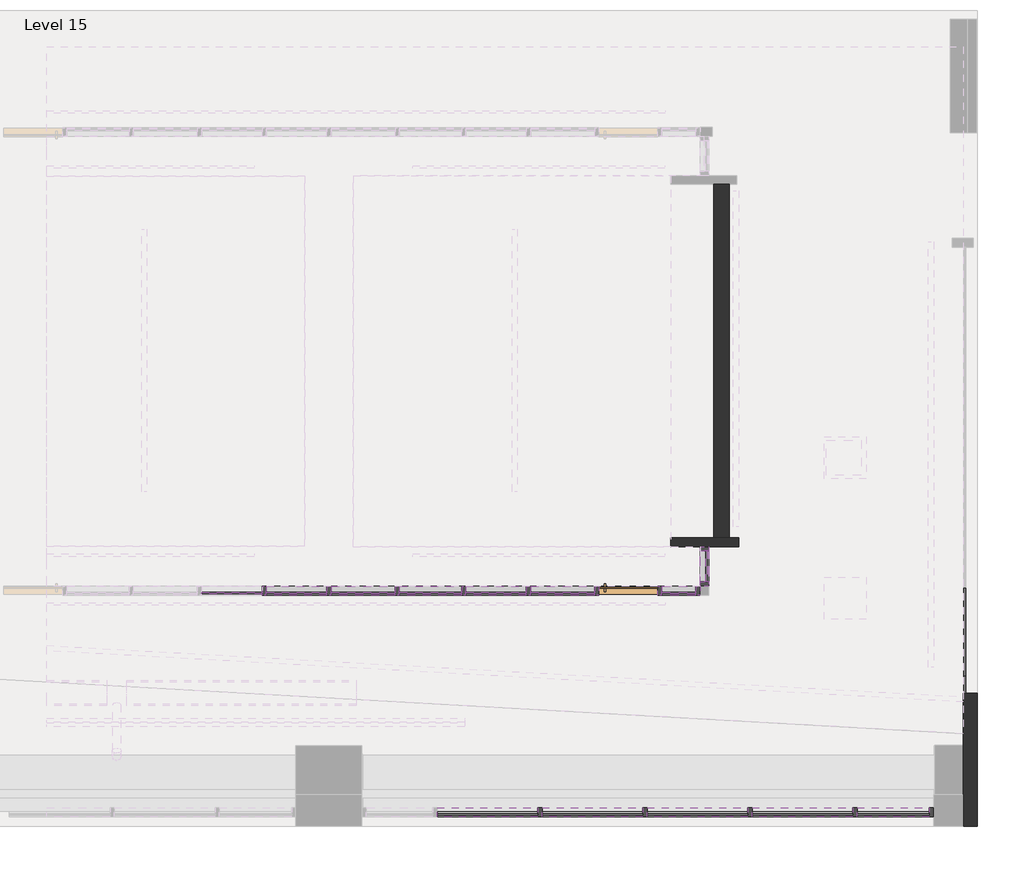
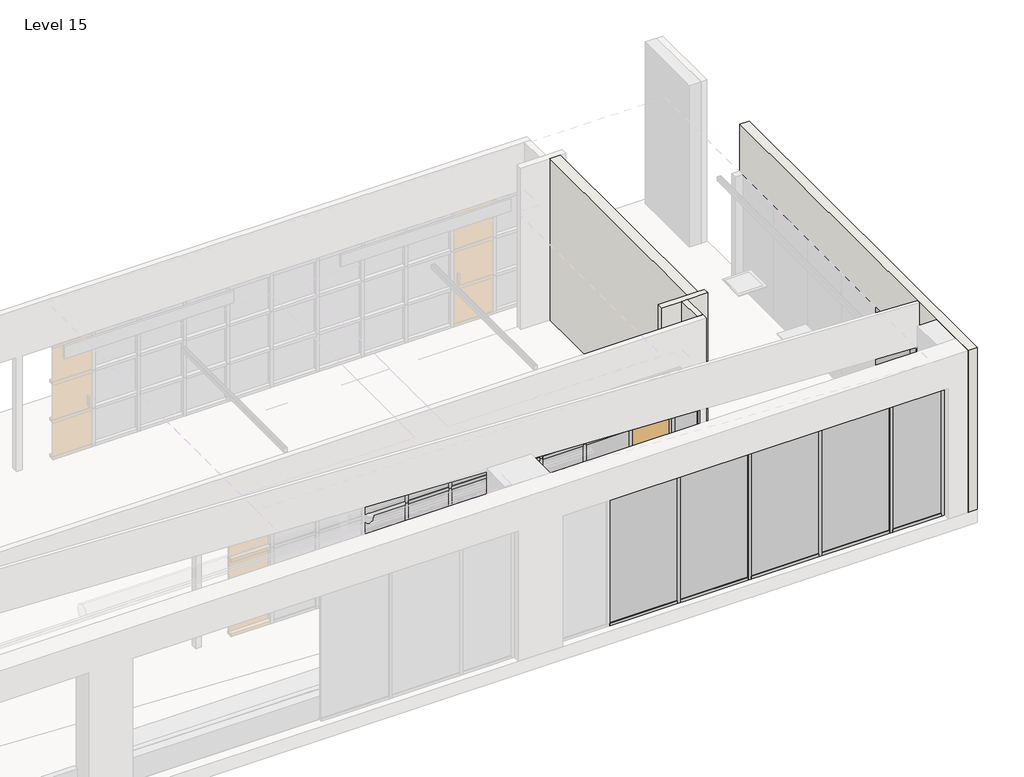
# One storey, part 3 of 11: 74 members, 31 plates, 4 walls, 1 door.
"""IFC4 building model written with IfcOpenShell, lengths in millimetres."""

from ifc_helpers import new_model, si_unit, frame, origin, place, context, project, spatial, polyline, outline, extrude, faceted_brep, transform, mapped, element, save
from components import door_curtain_wall_single_glass_door_curtain_wall_single_wood_7213060e, member_5bcf4c48, member_513efdbe, member_78934672, member_4a1dde21, member_3ebf181e, member_b9f3750b, member_757d0d80, member_69cae7f1, member_954a25dd, member_b7368e82, member_f689fba6, member_99b0d556, member_2928588c, member_aa254800, member_33497832, member_6ec9f0f0, system_panel_glazed_a2e86c99, system_panel_glazed_b6cfed7b, system_panel_glazed_1c2f863c, system_panel_glazed_3f6c4fe7, system_panel_glazed_92b1b0dd, system_panel_glazed_92ccbd79, system_panel_glazed_9c336c3c, system_panel_glazed_9f405089, system_panel_glazed_cf8f2fb3, system_panel_glazed_bf619781, system_panel_glazed_3cdeccce, system_panel_glazed_d449556d, system_panel_glazed_5ae3ba9e, system_panel_glazed_9605d38a

model = new_model("IFC4")

# Units and contexts
model_context = context("Model", 3, world=origin())
ifc_project = project(units=[si_unit("LENGTHUNIT", "METRE", prefix="MILLI")], contexts=[model_context])

# Site, building, storey
site = spatial("IfcSite", under=ifc_project)
building = spatial("IfcBuilding", under=site)
storey = spatial("IfcBuildingStorey", under=building, Name="Level 15", Elevation=51206.4)

# Door
placement = place(None, origin())
door_curtain_wall_single_glass_door_curtain_wall_single_wood_shape = door_curtain_wall_single_glass_door_curtain_wall_single_wood_7213060e(model_context)
element("IfcDoor", 1, ObjectType="Door-Curtain-Wall-Single-Glass : Door-Curtain-Wall-Single-Wood", at=placement, inside=storey, context=model_context, shape_type="MappedRepresentation", body=[
    mapped(door_curtain_wall_single_glass_door_curtain_wall_single_wood_shape, transform((13793.8112561, -3621.1064015, 51206.4), x_axis=(1.0, 0.0, 0.0), y_axis=(0.0, 1.0, 0.0), z_axis=(0.0, 0.0, 1.0))),
])

# Members
member_shape = member_5bcf4c48(model_context)
element("IfcMember", 2, ObjectType="Rectangular Mullion : 2.5\" x 5\" rectangular", at=placement, inside=storey, context=model_context, shape_type="MappedRepresentation", body=[
    mapped(member_shape, transform((18227.3384309, -6837.4064015, 54177.8252182), x_axis=(1.0, 0.0, 0.0), y_axis=(0.0, 1.0, 0.0), z_axis=(0.0, 0.0, 1.0))),
])
member_2_shape = member_513efdbe(model_context)
element("IfcMember", 3, ObjectType="Rectangular Mullion : 2.5\" x 5\" rectangular", at=placement, inside=storey, context=model_context, shape_type="MappedRepresentation", body=[
    mapped(member_2_shape, transform((12512.3384309, -6837.4064015, 51206.4), x_axis=(-1.0, 0.0, 0.0), y_axis=(0.0, 1.0, 0.0), z_axis=(0.0, 0.0, -1.0))),
])
element("IfcMember", 4, ObjectType="Rectangular Mullion : 2.5\" x 5\" rectangular", at=placement, inside=storey, context=model_context, shape_type="MappedRepresentation", body=[
    mapped(member_2_shape, transform((14036.3384309, -6837.4064015, 51206.4), x_axis=(-1.0, 0.0, 0.0), y_axis=(0.0, 1.0, 0.0), z_axis=(0.0, 0.0, -1.0))),
])
element("IfcMember", 5, ObjectType="Rectangular Mullion : 2.5\" x 5\" rectangular", at=placement, inside=storey, context=model_context, shape_type="MappedRepresentation", body=[
    mapped(member_2_shape, transform((15560.3384309, -6837.4064015, 51206.4), x_axis=(-1.0, 0.0, 0.0), y_axis=(0.0, 1.0, 0.0), z_axis=(0.0, 0.0, -1.0))),
])
element("IfcMember", 6, ObjectType="Rectangular Mullion : 2.5\" x 5\" rectangular", at=placement, inside=storey, context=model_context, shape_type="MappedRepresentation", body=[
    mapped(member_2_shape, transform((17084.3384309, -6837.4064015, 51206.4), x_axis=(-1.0, 0.0, 0.0), y_axis=(0.0, 1.0, 0.0), z_axis=(0.0, 0.0, -1.0))),
])
member_3_shape = member_78934672(model_context)
element("IfcMember", 7, ObjectType="Rectangular Mullion : 2.5\" x 5\" rectangular", at=placement, inside=storey, context=model_context, shape_type="MappedRepresentation", body=[
    mapped(member_3_shape, transform((18163.8384309, -6837.4064015, 51206.4), x_axis=(0.0, 0.0, -1.0), y_axis=(0.0, 1.0, 0.0), z_axis=(1.0, 0.0, 0.0))),
])
element("IfcMember", 8, ObjectType="Rectangular Mullion : 2.5\" x 5\" rectangular", at=placement, inside=storey, context=model_context, shape_type="MappedRepresentation", body=[
    mapped(member_3_shape, transform((17116.0884309, -6837.4064015, 54177.8252182), x_axis=(0.0, 0.0, 1.0), y_axis=(0.0, 1.0, 0.0), z_axis=(-1.0, 0.0, 0.0))),
])
member_4_shape = member_4a1dde21(model_context)
element("IfcMember", 9, ObjectType="Rectangular Mullion : 2.5\" x 5\" rectangular", at=placement, inside=storey, context=model_context, shape_type="MappedRepresentation", body=[
    mapped(member_4_shape, transform((12544.0884309, -6837.4064015, 54177.8252182), x_axis=(0.0, 0.0, 1.0), y_axis=(0.0, 1.0, 0.0), z_axis=(-1.0, 0.0, 0.0))),
])
element("IfcMember", 10, ObjectType="Rectangular Mullion : 2.5\" x 5\" rectangular", at=placement, inside=storey, context=model_context, shape_type="MappedRepresentation", body=[
    mapped(member_4_shape, transform((11020.0884309, -6837.4064015, 54177.8252182), x_axis=(0.0, 0.0, 1.0), y_axis=(0.0, 1.0, 0.0), z_axis=(-1.0, 0.0, 0.0))),
])
element("IfcMember", 11, ObjectType="Rectangular Mullion : 2.5\" x 5\" rectangular", at=placement, inside=storey, context=model_context, shape_type="MappedRepresentation", body=[
    mapped(member_4_shape, transform((14068.0884309, -6837.4064015, 54177.8252182), x_axis=(0.0, 0.0, 1.0), y_axis=(0.0, 1.0, 0.0), z_axis=(-1.0, 0.0, 0.0))),
])
element("IfcMember", 12, ObjectType="Rectangular Mullion : 2.5\" x 5\" rectangular", at=placement, inside=storey, context=model_context, shape_type="MappedRepresentation", body=[
    mapped(member_4_shape, transform((15592.0884309, -6837.4064015, 54177.8252182), x_axis=(0.0, 0.0, 1.0), y_axis=(0.0, 1.0, 0.0), z_axis=(-1.0, 0.0, 0.0))),
])
element("IfcMember", 13, ObjectType="Rectangular Mullion : 2.5\" x 5\" rectangular", at=placement, inside=storey, context=model_context, shape_type="MappedRepresentation", body=[
    mapped(member_4_shape, transform((12480.5884309, -6837.4064015, 51206.4), x_axis=(0.0, 0.0, -1.0), y_axis=(0.0, 1.0, 0.0), z_axis=(1.0, 0.0, 0.0))),
])
element("IfcMember", 14, ObjectType="Rectangular Mullion : 2.5\" x 5\" rectangular", at=placement, inside=storey, context=model_context, shape_type="MappedRepresentation", body=[
    mapped(member_4_shape, transform((14004.5884309, -6837.4064015, 51206.4), x_axis=(0.0, 0.0, -1.0), y_axis=(0.0, 1.0, 0.0), z_axis=(1.0, 0.0, 0.0))),
])
element("IfcMember", 15, ObjectType="Rectangular Mullion : 2.5\" x 5\" rectangular", at=placement, inside=storey, context=model_context, shape_type="MappedRepresentation", body=[
    mapped(member_4_shape, transform((15528.5884309, -6837.4064015, 51206.4), x_axis=(0.0, 0.0, -1.0), y_axis=(0.0, 1.0, 0.0), z_axis=(1.0, 0.0, 0.0))),
])
element("IfcMember", 16, ObjectType="Rectangular Mullion : 2.5\" x 5\" rectangular", at=placement, inside=storey, context=model_context, shape_type="MappedRepresentation", body=[
    mapped(member_4_shape, transform((17052.5884309, -6837.4064015, 51206.4), x_axis=(0.0, 0.0, -1.0), y_axis=(0.0, 1.0, 0.0), z_axis=(1.0, 0.0, 0.0))),
])
member_5_shape = member_3ebf181e(model_context)
element("IfcMember", 17, ObjectType="Rectangular Mullion : 2.5\" x 5\" rectangular", at=placement, inside=storey, context=model_context, shape_type="MappedRepresentation", body=[
    mapped(member_5_shape, transform((14898.6855466, -3494.1064015, 53804.1570075), x_axis=(0.0, 0.0, 1.0), y_axis=(-1.0, 0.0, 0.0), z_axis=(0.0, -1.0, 0.0))),
])
element("IfcMember", 18, ObjectType="Rectangular Mullion : 2.5\" x 5\" rectangular", at=placement, inside=storey, context=model_context, shape_type="MappedRepresentation", body=[
    mapped(member_5_shape, transform((14898.6855466, -3043.4154908, 51206.4), x_axis=(0.0, 0.0, -1.0), y_axis=(-1.0, 0.0, 0.0), z_axis=(0.0, 1.0, 0.0))),
])
member_6_shape = member_b9f3750b(model_context)
element("IfcMember", 19, ObjectType="Rectangular Mullion : 2.5\" x 5\" rectangular", at=placement, inside=storey, context=model_context, shape_type="MappedRepresentation", body=[
    mapped(member_6_shape, transform((14771.6855466, -3621.1064015, 51206.4), x_axis=(0.0, 0.0, -1.0), y_axis=(0.0, 1.0, 0.0), z_axis=(1.0, 0.0, 0.0))),
])
element("IfcMember", 20, ObjectType="Rectangular Mullion : 2.5\" x 5\" rectangular", at=placement, inside=storey, context=model_context, shape_type="MappedRepresentation", body=[
    mapped(member_6_shape, transform((14282.7355466, -3621.1064015, 53804.1570075), x_axis=(0.0, 0.0, 1.0), y_axis=(0.0, 1.0, 0.0), z_axis=(-1.0, 0.0, 0.0))),
])
member_7_shape = member_757d0d80(model_context)
element("IfcMember", 21, ObjectType="Rectangular Mullion : 2.5\" x 5\" rectangular", at=placement, inside=storey, context=model_context, shape_type="MappedRepresentation", body=[
    mapped(member_7_shape, transform((14282.7355466, -3621.1064015, 52938.238005), x_axis=(0.0, 0.0, 1.0), y_axis=(0.0, 1.0, 0.0), z_axis=(-1.0, 0.0, 0.0))),
])
element("IfcMember", 22, ObjectType="Rectangular Mullion : 2.5\" x 5\" rectangular", at=placement, inside=storey, context=model_context, shape_type="MappedRepresentation", body=[
    mapped(member_7_shape, transform((14282.7355466, -3621.1064015, 52072.3190025), x_axis=(0.0, 0.0, 1.0), y_axis=(0.0, 1.0, 0.0), z_axis=(-1.0, 0.0, 0.0))),
])
member_8_shape = member_69cae7f1(model_context)
element("IfcMember", 23, ObjectType="Rectangular Mullion : 2.5\" x 5\" rectangular", at=placement, inside=storey, context=model_context, shape_type="MappedRepresentation", body=[
    mapped(member_8_shape, transform((14250.9855466, -3621.1064015, 52938.238005), x_axis=(-1.0, 0.0, 0.0), y_axis=(0.0, 1.0, 0.0), z_axis=(0.0, 0.0, -1.0))),
])
element("IfcMember", 24, ObjectType="Rectangular Mullion : 2.5\" x 5\" rectangular", at=placement, inside=storey, context=model_context, shape_type="MappedRepresentation", body=[
    mapped(member_8_shape, transform((13336.6369657, -3621.1064015, 52938.238005), x_axis=(-1.0, 0.0, 0.0), y_axis=(0.0, 1.0, 0.0), z_axis=(0.0, 0.0, -1.0))),
])
element("IfcMember", 25, ObjectType="Rectangular Mullion : 2.5\" x 5\" rectangular", at=placement, inside=storey, context=model_context, shape_type="MappedRepresentation", body=[
    mapped(member_8_shape, transform((12346.0369657, -3621.1064015, 52938.238005), x_axis=(-1.0, 0.0, 0.0), y_axis=(0.0, 1.0, 0.0), z_axis=(0.0, 0.0, -1.0))),
])
element("IfcMember", 26, ObjectType="Rectangular Mullion : 2.5\" x 5\" rectangular", at=placement, inside=storey, context=model_context, shape_type="MappedRepresentation", body=[
    mapped(member_8_shape, transform((11406.2369657, -3621.1064015, 52938.238005), x_axis=(-1.0, 0.0, 0.0), y_axis=(0.0, 1.0, 0.0), z_axis=(0.0, 0.0, -1.0))),
])
element("IfcMember", 27, ObjectType="Rectangular Mullion : 2.5\" x 5\" rectangular", at=placement, inside=storey, context=model_context, shape_type="MappedRepresentation", body=[
    mapped(member_8_shape, transform((10441.0369657, -3621.1064015, 52938.238005), x_axis=(-1.0, 0.0, 0.0), y_axis=(0.0, 1.0, 0.0), z_axis=(0.0, 0.0, -1.0))),
])
element("IfcMember", 28, ObjectType="Rectangular Mullion : 2.5\" x 5\" rectangular", at=placement, inside=storey, context=model_context, shape_type="MappedRepresentation", body=[
    mapped(member_8_shape, transform((9450.4369657, -3621.1064015, 52938.238005), x_axis=(-1.0, 0.0, 0.0), y_axis=(0.0, 1.0, 0.0), z_axis=(0.0, 0.0, -1.0))),
])
element("IfcMember", 29, ObjectType="Rectangular Mullion : 2.5\" x 5\" rectangular", at=placement, inside=storey, context=model_context, shape_type="MappedRepresentation", body=[
    mapped(member_8_shape, transform((8510.6369657, -3621.1064015, 52938.238005), x_axis=(-1.0, 0.0, 0.0), y_axis=(0.0, 1.0, 0.0), z_axis=(0.0, 0.0, -1.0))),
])
member_9_shape = member_954a25dd(model_context)
element("IfcMember", 30, ObjectType="Rectangular Mullion : 2.5\" x 5\" rectangular", at=placement, inside=storey, context=model_context, shape_type="MappedRepresentation", body=[
    mapped(member_9_shape, transform((14898.6855466, -2979.9154908, 53804.1570075), x_axis=(0.0, 1.0, 0.0), y_axis=(-1.0, 0.0, 0.0), z_axis=(0.0, 0.0, 1.0))),
])
element("IfcMember", 31, ObjectType="Rectangular Mullion : 2.5\" x 5\" rectangular", at=placement, inside=storey, context=model_context, shape_type="MappedRepresentation", body=[
    mapped(member_9_shape, transform((14835.1855466, -3621.1064015, 53804.1570075), x_axis=(1.0, 0.0, 0.0), y_axis=(0.0, 1.0, 0.0), z_axis=(0.0, 0.0, 1.0))),
])
element("IfcMember", 32, ObjectType="Rectangular Mullion : 2.5\" x 5\" rectangular", at=placement, inside=storey, context=model_context, shape_type="MappedRepresentation", body=[
    mapped(member_9_shape, transform((14898.6855466, -3557.6064015, 52938.238005), x_axis=(0.0, -1.0, 0.0), y_axis=(-1.0, 0.0, 0.0), z_axis=(0.0, 0.0, -1.0))),
])
element("IfcMember", 33, ObjectType="Rectangular Mullion : 2.5\" x 5\" rectangular", at=placement, inside=storey, context=model_context, shape_type="MappedRepresentation", body=[
    mapped(member_8_shape, transform((8510.6369657, -3621.1064015, 51206.4), x_axis=(-1.0, 0.0, 0.0), y_axis=(0.0, 1.0, 0.0), z_axis=(0.0, 0.0, -1.0))),
])
element("IfcMember", 34, ObjectType="Rectangular Mullion : 2.5\" x 5\" rectangular", at=placement, inside=storey, context=model_context, shape_type="MappedRepresentation", body=[
    mapped(member_8_shape, transform((9450.4369657, -3621.1064015, 51206.4), x_axis=(-1.0, 0.0, 0.0), y_axis=(0.0, 1.0, 0.0), z_axis=(0.0, 0.0, -1.0))),
])
element("IfcMember", 35, ObjectType="Rectangular Mullion : 2.5\" x 5\" rectangular", at=placement, inside=storey, context=model_context, shape_type="MappedRepresentation", body=[
    mapped(member_8_shape, transform((10441.0369657, -3621.1064015, 51206.4), x_axis=(-1.0, 0.0, 0.0), y_axis=(0.0, 1.0, 0.0), z_axis=(0.0, 0.0, -1.0))),
])
element("IfcMember", 36, ObjectType="Rectangular Mullion : 2.5\" x 5\" rectangular", at=placement, inside=storey, context=model_context, shape_type="MappedRepresentation", body=[
    mapped(member_8_shape, transform((11406.2369657, -3621.1064015, 51206.4), x_axis=(-1.0, 0.0, 0.0), y_axis=(0.0, 1.0, 0.0), z_axis=(0.0, 0.0, -1.0))),
])
element("IfcMember", 37, ObjectType="Rectangular Mullion : 2.5\" x 5\" rectangular", at=placement, inside=storey, context=model_context, shape_type="MappedRepresentation", body=[
    mapped(member_8_shape, transform((12346.0369657, -3621.1064015, 51206.4), x_axis=(-1.0, 0.0, 0.0), y_axis=(0.0, 1.0, 0.0), z_axis=(0.0, 0.0, -1.0))),
])
element("IfcMember", 38, ObjectType="Rectangular Mullion : 2.5\" x 5\" rectangular", at=placement, inside=storey, context=model_context, shape_type="MappedRepresentation", body=[
    mapped(member_8_shape, transform((13336.6369657, -3621.1064015, 51206.4), x_axis=(-1.0, 0.0, 0.0), y_axis=(0.0, 1.0, 0.0), z_axis=(0.0, 0.0, -1.0))),
])
element("IfcMember", 39, ObjectType="Rectangular Mullion : 2.5\" x 5\" rectangular", at=placement, inside=storey, context=model_context, shape_type="MappedRepresentation", body=[
    mapped(member_8_shape, transform((14250.9855466, -3621.1064015, 51206.4), x_axis=(-1.0, 0.0, 0.0), y_axis=(0.0, 1.0, 0.0), z_axis=(0.0, 0.0, -1.0))),
])
element("IfcMember", 40, ObjectType="Rectangular Mullion : 2.5\" x 5\" rectangular", at=placement, inside=storey, context=model_context, shape_type="MappedRepresentation", body=[
    mapped(member_8_shape, transform((14250.9855466, -3621.1064015, 52072.3190025), x_axis=(-1.0, 0.0, 0.0), y_axis=(0.0, 1.0, 0.0), z_axis=(0.0, 0.0, -1.0))),
])
element("IfcMember", 41, ObjectType="Rectangular Mullion : 2.5\" x 5\" rectangular", at=placement, inside=storey, context=model_context, shape_type="MappedRepresentation", body=[
    mapped(member_8_shape, transform((13336.6369657, -3621.1064015, 52072.3190025), x_axis=(-1.0, 0.0, 0.0), y_axis=(0.0, 1.0, 0.0), z_axis=(0.0, 0.0, -1.0))),
])
element("IfcMember", 42, ObjectType="Rectangular Mullion : 2.5\" x 5\" rectangular", at=placement, inside=storey, context=model_context, shape_type="MappedRepresentation", body=[
    mapped(member_8_shape, transform((12346.0369657, -3621.1064015, 52072.3190025), x_axis=(-1.0, 0.0, 0.0), y_axis=(0.0, 1.0, 0.0), z_axis=(0.0, 0.0, -1.0))),
])
element("IfcMember", 43, ObjectType="Rectangular Mullion : 2.5\" x 5\" rectangular", at=placement, inside=storey, context=model_context, shape_type="MappedRepresentation", body=[
    mapped(member_8_shape, transform((11406.2369657, -3621.1064015, 52072.3190025), x_axis=(-1.0, 0.0, 0.0), y_axis=(0.0, 1.0, 0.0), z_axis=(0.0, 0.0, -1.0))),
])
element("IfcMember", 44, ObjectType="Rectangular Mullion : 2.5\" x 5\" rectangular", at=placement, inside=storey, context=model_context, shape_type="MappedRepresentation", body=[
    mapped(member_8_shape, transform((10441.0369657, -3621.1064015, 52072.3190025), x_axis=(-1.0, 0.0, 0.0), y_axis=(0.0, 1.0, 0.0), z_axis=(0.0, 0.0, -1.0))),
])
element("IfcMember", 45, ObjectType="Rectangular Mullion : 2.5\" x 5\" rectangular", at=placement, inside=storey, context=model_context, shape_type="MappedRepresentation", body=[
    mapped(member_8_shape, transform((9450.4369657, -3621.1064015, 52072.3190025), x_axis=(-1.0, 0.0, 0.0), y_axis=(0.0, 1.0, 0.0), z_axis=(0.0, 0.0, -1.0))),
])
element("IfcMember", 46, ObjectType="Rectangular Mullion : 2.5\" x 5\" rectangular", at=placement, inside=storey, context=model_context, shape_type="MappedRepresentation", body=[
    mapped(member_8_shape, transform((8510.6369657, -3621.1064015, 52072.3190025), x_axis=(-1.0, 0.0, 0.0), y_axis=(0.0, 1.0, 0.0), z_axis=(0.0, 0.0, -1.0))),
])
element("IfcMember", 47, ObjectType="Rectangular Mullion : 2.5\" x 5\" rectangular", at=placement, inside=storey, context=model_context, shape_type="MappedRepresentation", body=[
    mapped(member_9_shape, transform((14898.6855466, -3557.6064015, 51206.4), x_axis=(0.0, -1.0, 0.0), y_axis=(-1.0, 0.0, 0.0), z_axis=(0.0, 0.0, -1.0))),
])
element("IfcMember", 48, ObjectType="Rectangular Mullion : 2.5\" x 5\" rectangular", at=placement, inside=storey, context=model_context, shape_type="MappedRepresentation", body=[
    mapped(member_9_shape, transform((14835.1855466, -3621.1064015, 52938.238005), x_axis=(1.0, 0.0, 0.0), y_axis=(0.0, 1.0, 0.0), z_axis=(0.0, 0.0, 1.0))),
])
element("IfcMember", 49, ObjectType="Rectangular Mullion : 2.5\" x 5\" rectangular", at=placement, inside=storey, context=model_context, shape_type="MappedRepresentation", body=[
    mapped(member_9_shape, transform((14898.6855466, -2979.9154908, 52938.238005), x_axis=(0.0, 1.0, 0.0), y_axis=(-1.0, 0.0, 0.0), z_axis=(0.0, 0.0, 1.0))),
])
element("IfcMember", 50, ObjectType="Rectangular Mullion : 2.5\" x 5\" rectangular", at=placement, inside=storey, context=model_context, shape_type="MappedRepresentation", body=[
    mapped(member_9_shape, transform((14898.6855466, -3557.6064015, 52072.3190025), x_axis=(0.0, -1.0, 0.0), y_axis=(-1.0, 0.0, 0.0), z_axis=(0.0, 0.0, -1.0))),
])
element("IfcMember", 51, ObjectType="Rectangular Mullion : 2.5\" x 5\" rectangular", at=placement, inside=storey, context=model_context, shape_type="MappedRepresentation", body=[
    mapped(member_9_shape, transform((14835.1855466, -3621.1064015, 52072.3190025), x_axis=(1.0, 0.0, 0.0), y_axis=(0.0, 1.0, 0.0), z_axis=(0.0, 0.0, 1.0))),
])
element("IfcMember", 52, ObjectType="Rectangular Mullion : 2.5\" x 5\" rectangular", at=placement, inside=storey, context=model_context, shape_type="MappedRepresentation", body=[
    mapped(member_9_shape, transform((14898.6855466, -2979.9154908, 52072.3190025), x_axis=(0.0, 1.0, 0.0), y_axis=(-1.0, 0.0, 0.0), z_axis=(0.0, 0.0, 1.0))),
])
member_10_shape = member_b7368e82(model_context)
element("IfcMember", 53, ObjectType="Rectangular Mullion : 2.5\" x 5\" rectangular", at=placement, inside=storey, context=model_context, shape_type="MappedRepresentation", body=[
    mapped(member_10_shape, transform((10472.7869657, -3621.1064015, 53804.1570075), x_axis=(0.0, 0.0, 1.0), y_axis=(0.0, 1.0, 0.0), z_axis=(-1.0, 0.0, 0.0))),
])
element("IfcMember", 54, ObjectType="Rectangular Mullion : 2.5\" x 5\" rectangular", at=placement, inside=storey, context=model_context, shape_type="MappedRepresentation", body=[
    mapped(member_10_shape, transform((11374.4869657, -3621.1064015, 51206.4), x_axis=(0.0, 0.0, -1.0), y_axis=(0.0, 1.0, 0.0), z_axis=(1.0, 0.0, 0.0))),
])
member_11_shape = member_f689fba6(model_context)
element("IfcMember", 55, ObjectType="Rectangular Mullion : 2.5\" x 5\" rectangular", at=placement, inside=storey, context=model_context, shape_type="MappedRepresentation", body=[
    mapped(member_11_shape, transform((9482.1869657, -3621.1064015, 53804.1570075), x_axis=(0.0, 0.0, 1.0), y_axis=(0.0, 1.0, 0.0), z_axis=(-1.0, 0.0, 0.0))),
])
element("IfcMember", 56, ObjectType="Rectangular Mullion : 2.5\" x 5\" rectangular", at=placement, inside=storey, context=model_context, shape_type="MappedRepresentation", body=[
    mapped(member_11_shape, transform((12377.7869657, -3621.1064015, 53804.1570075), x_axis=(0.0, 0.0, 1.0), y_axis=(0.0, 1.0, 0.0), z_axis=(-1.0, 0.0, 0.0))),
])
element("IfcMember", 57, ObjectType="Rectangular Mullion : 2.5\" x 5\" rectangular", at=placement, inside=storey, context=model_context, shape_type="MappedRepresentation", body=[
    mapped(member_11_shape, transform((10409.2869657, -3621.1064015, 51206.4), x_axis=(0.0, 0.0, -1.0), y_axis=(0.0, 1.0, 0.0), z_axis=(1.0, 0.0, 0.0))),
])
element("IfcMember", 58, ObjectType="Rectangular Mullion : 2.5\" x 5\" rectangular", at=placement, inside=storey, context=model_context, shape_type="MappedRepresentation", body=[
    mapped(member_11_shape, transform((13304.8869657, -3621.1064015, 51206.4), x_axis=(0.0, 0.0, -1.0), y_axis=(0.0, 1.0, 0.0), z_axis=(1.0, 0.0, 0.0))),
])
member_12_shape = member_99b0d556(model_context)
element("IfcMember", 59, ObjectType="Rectangular Mullion : 2.5\" x 5\" rectangular", at=placement, inside=storey, context=model_context, shape_type="MappedRepresentation", body=[
    mapped(member_12_shape, transform((8542.3869657, -3621.1064015, 53804.1570075), x_axis=(0.0, 0.0, 1.0), y_axis=(0.0, 1.0, 0.0), z_axis=(-1.0, 0.0, 0.0))),
])
element("IfcMember", 60, ObjectType="Rectangular Mullion : 2.5\" x 5\" rectangular", at=placement, inside=storey, context=model_context, shape_type="MappedRepresentation", body=[
    mapped(member_12_shape, transform((11437.9869657, -3621.1064015, 53804.1570075), x_axis=(0.0, 0.0, 1.0), y_axis=(0.0, 1.0, 0.0), z_axis=(-1.0, 0.0, 0.0))),
])
element("IfcMember", 61, ObjectType="Rectangular Mullion : 2.5\" x 5\" rectangular", at=placement, inside=storey, context=model_context, shape_type="MappedRepresentation", body=[
    mapped(member_12_shape, transform((8478.8869657, -3621.1064015, 51206.4), x_axis=(0.0, 0.0, -1.0), y_axis=(0.0, 1.0, 0.0), z_axis=(1.0, 0.0, 0.0))),
])
element("IfcMember", 62, ObjectType="Rectangular Mullion : 2.5\" x 5\" rectangular", at=placement, inside=storey, context=model_context, shape_type="MappedRepresentation", body=[
    mapped(member_12_shape, transform((9418.6869657, -3621.1064015, 51206.4), x_axis=(0.0, 0.0, -1.0), y_axis=(0.0, 1.0, 0.0), z_axis=(1.0, 0.0, 0.0))),
])
element("IfcMember", 63, ObjectType="Rectangular Mullion : 2.5\" x 5\" rectangular", at=placement, inside=storey, context=model_context, shape_type="MappedRepresentation", body=[
    mapped(member_12_shape, transform((12314.2869657, -3621.1064015, 51206.4), x_axis=(0.0, 0.0, -1.0), y_axis=(0.0, 1.0, 0.0), z_axis=(1.0, 0.0, 0.0))),
])
member_13_shape = member_2928588c(model_context)
element("IfcMember", 64, ObjectType="Rectangular Mullion : 2.5\" x 5\" rectangular", at=placement, inside=storey, context=model_context, shape_type="MappedRepresentation", body=[
    mapped(member_13_shape, transform((12377.7869657, -3621.1064015, 52938.238005), x_axis=(0.0, 0.0, 1.0), y_axis=(0.0, 1.0, 0.0), z_axis=(-1.0, 0.0, 0.0))),
])
element("IfcMember", 65, ObjectType="Rectangular Mullion : 2.5\" x 5\" rectangular", at=placement, inside=storey, context=model_context, shape_type="MappedRepresentation", body=[
    mapped(member_13_shape, transform((9482.1869657, -3621.1064015, 52938.238005), x_axis=(0.0, 0.0, 1.0), y_axis=(0.0, 1.0, 0.0), z_axis=(-1.0, 0.0, 0.0))),
])
element("IfcMember", 66, ObjectType="Rectangular Mullion : 2.5\" x 5\" rectangular", at=placement, inside=storey, context=model_context, shape_type="MappedRepresentation", body=[
    mapped(member_13_shape, transform((12377.7869657, -3621.1064015, 52072.3190025), x_axis=(0.0, 0.0, 1.0), y_axis=(0.0, 1.0, 0.0), z_axis=(-1.0, 0.0, 0.0))),
])
element("IfcMember", 67, ObjectType="Rectangular Mullion : 2.5\" x 5\" rectangular", at=placement, inside=storey, context=model_context, shape_type="MappedRepresentation", body=[
    mapped(member_13_shape, transform((9482.1869657, -3621.1064015, 52072.3190025), x_axis=(0.0, 0.0, 1.0), y_axis=(0.0, 1.0, 0.0), z_axis=(-1.0, 0.0, 0.0))),
])
member_14_shape = member_aa254800(model_context)
element("IfcMember", 68, ObjectType="Rectangular Mullion : 2.5\" x 5\" rectangular", at=placement, inside=storey, context=model_context, shape_type="MappedRepresentation", body=[
    mapped(member_14_shape, transform((11437.9869657, -3621.1064015, 52938.238005), x_axis=(0.0, 0.0, 1.0), y_axis=(0.0, 1.0, 0.0), z_axis=(-1.0, 0.0, 0.0))),
])
element("IfcMember", 69, ObjectType="Rectangular Mullion : 2.5\" x 5\" rectangular", at=placement, inside=storey, context=model_context, shape_type="MappedRepresentation", body=[
    mapped(member_14_shape, transform((8542.3869657, -3621.1064015, 52938.238005), x_axis=(0.0, 0.0, 1.0), y_axis=(0.0, 1.0, 0.0), z_axis=(-1.0, 0.0, 0.0))),
])
element("IfcMember", 70, ObjectType="Rectangular Mullion : 2.5\" x 5\" rectangular", at=placement, inside=storey, context=model_context, shape_type="MappedRepresentation", body=[
    mapped(member_14_shape, transform((11437.9869657, -3621.1064015, 52072.3190025), x_axis=(0.0, 0.0, 1.0), y_axis=(0.0, 1.0, 0.0), z_axis=(-1.0, 0.0, 0.0))),
])
element("IfcMember", 71, ObjectType="Rectangular Mullion : 2.5\" x 5\" rectangular", at=placement, inside=storey, context=model_context, shape_type="MappedRepresentation", body=[
    mapped(member_14_shape, transform((8542.3869657, -3621.1064015, 52072.3190025), x_axis=(0.0, 0.0, 1.0), y_axis=(0.0, 1.0, 0.0), z_axis=(-1.0, 0.0, 0.0))),
])
member_15_shape = member_33497832(model_context)
element("IfcMember", 72, ObjectType="Rectangular Mullion : 2.5\" x 5\" rectangular", at=placement, inside=storey, context=model_context, shape_type="MappedRepresentation", body=[
    mapped(member_15_shape, transform((10472.7869657, -3621.1064015, 52938.238005), x_axis=(0.0, 0.0, 1.0), y_axis=(0.0, 1.0, 0.0), z_axis=(-1.0, 0.0, 0.0))),
])
element("IfcMember", 73, ObjectType="Rectangular Mullion : 2.5\" x 5\" rectangular", at=placement, inside=storey, context=model_context, shape_type="MappedRepresentation", body=[
    mapped(member_15_shape, transform((10472.7869657, -3621.1064015, 52072.3190025), x_axis=(0.0, 0.0, 1.0), y_axis=(0.0, 1.0, 0.0), z_axis=(-1.0, 0.0, 0.0))),
])
member_16_shape = member_6ec9f0f0(model_context)
element("IfcMember", 74, ObjectType="Rectangular Mullion : 2.5\" x 5\" rectangular", at=placement, inside=storey, context=model_context, shape_type="MappedRepresentation", body=[
    mapped(member_16_shape, transform((14898.6855466, -3494.1064015, 52938.238005), x_axis=(0.0, 0.0, 1.0), y_axis=(-1.0, 0.0, 0.0), z_axis=(0.0, -1.0, 0.0))),
])
element("IfcMember", 75, ObjectType="Rectangular Mullion : 2.5\" x 5\" rectangular", at=placement, inside=storey, context=model_context, shape_type="MappedRepresentation", body=[
    mapped(member_16_shape, transform((14898.6855466, -3494.1064015, 52072.3190025), x_axis=(0.0, 0.0, 1.0), y_axis=(-1.0, 0.0, 0.0), z_axis=(0.0, -1.0, 0.0))),
])

# Plates
system_panel_glazed_shape = system_panel_glazed_a2e86c99(model_context)
element("IfcPlate", 76, ObjectType="System Panel : Glazed", at=placement, inside=storey, context=model_context, shape_type="MappedRepresentation", body=[
    mapped(system_panel_glazed_shape, transform((18645.0084916, -4221.2064015, 51206.4), x_axis=(0.0, -1.0, 0.0), y_axis=(1.0, 0.0, 0.0), z_axis=(0.0, 0.0, 1.0))),
])
system_panel_glazed_2_shape = system_panel_glazed_b6cfed7b(model_context)
element("IfcPlate", 77, ObjectType="System Panel : Glazed", at=placement, inside=storey, context=model_context, shape_type="MappedRepresentation", body=[
    mapped(system_panel_glazed_2_shape, transform((17639.9634309, -6837.4064015, 51269.9), x_axis=(-1.0, 0.0, 0.0), y_axis=(0.0, -1.0, 0.0), z_axis=(0.0, 0.0, 1.0))),
])
system_panel_glazed_3_shape = system_panel_glazed_1c2f863c(model_context)
element("IfcPlate", 78, ObjectType="System Panel : Glazed", at=placement, inside=storey, context=model_context, shape_type="MappedRepresentation", body=[
    mapped(system_panel_glazed_3_shape, transform((11750.3384309, -6837.4064015, 51269.9), x_axis=(-1.0, 0.0, 0.0), y_axis=(0.0, -1.0, 0.0), z_axis=(0.0, 0.0, 1.0))),
])
element("IfcPlate", 79, ObjectType="System Panel : Glazed", at=placement, inside=storey, context=model_context, shape_type="MappedRepresentation", body=[
    mapped(system_panel_glazed_3_shape, transform((13274.3384309, -6837.4064015, 51269.9), x_axis=(-1.0, 0.0, 0.0), y_axis=(0.0, -1.0, 0.0), z_axis=(0.0, 0.0, 1.0))),
])
element("IfcPlate", 80, ObjectType="System Panel : Glazed", at=placement, inside=storey, context=model_context, shape_type="MappedRepresentation", body=[
    mapped(system_panel_glazed_3_shape, transform((14798.3384309, -6837.4064015, 51269.9), x_axis=(-1.0, 0.0, 0.0), y_axis=(0.0, -1.0, 0.0), z_axis=(0.0, 0.0, 1.0))),
])
element("IfcPlate", 81, ObjectType="System Panel : Glazed", at=placement, inside=storey, context=model_context, shape_type="MappedRepresentation", body=[
    mapped(system_panel_glazed_3_shape, transform((16322.3384309, -6837.4064015, 51269.9), x_axis=(-1.0, 0.0, 0.0), y_axis=(0.0, -1.0, 0.0), z_axis=(0.0, 0.0, 1.0))),
])
system_panel_glazed_4_shape = system_panel_glazed_3f6c4fe7(model_context)
element("IfcPlate", 82, ObjectType="System Panel : Glazed", at=placement, inside=storey, context=model_context, shape_type="MappedRepresentation", body=[
    mapped(system_panel_glazed_4_shape, transform((14527.2105466, -3621.1064015, 51269.9), x_axis=(-1.0, 0.0, 0.0), y_axis=(0.0, -1.0, 0.0), z_axis=(0.0, 0.0, 1.0))),
])
element("IfcPlate", 83, ObjectType="System Panel : Glazed", at=placement, inside=storey, context=model_context, shape_type="MappedRepresentation", body=[
    mapped(system_panel_glazed_4_shape, transform((14527.2105466, -3621.1064015, 52969.988005), x_axis=(-1.0, 0.0, 0.0), y_axis=(0.0, -1.0, 0.0), z_axis=(0.0, 0.0, 1.0))),
])
system_panel_glazed_5_shape = system_panel_glazed_92b1b0dd(model_context)
element("IfcPlate", 84, ObjectType="System Panel : Glazed", at=placement, inside=storey, context=model_context, shape_type="MappedRepresentation", body=[
    mapped(system_panel_glazed_5_shape, transform((14527.2105466, -3621.1064015, 52104.0690025), x_axis=(-1.0, 0.0, 0.0), y_axis=(0.0, -1.0, 0.0), z_axis=(0.0, 0.0, 1.0))),
])
system_panel_glazed_6_shape = system_panel_glazed_92ccbd79(model_context)
element("IfcPlate", 85, ObjectType="System Panel : Glazed", at=placement, inside=storey, context=model_context, shape_type="MappedRepresentation", body=[
    mapped(system_panel_glazed_6_shape, transform((9945.7369657, -3621.1064015, 51269.9), x_axis=(-1.0, 0.0, 0.0), y_axis=(0.0, -1.0, 0.0), z_axis=(0.0, 0.0, 1.0))),
])
element("IfcPlate", 86, ObjectType="System Panel : Glazed", at=placement, inside=storey, context=model_context, shape_type="MappedRepresentation", body=[
    mapped(system_panel_glazed_6_shape, transform((12841.3369657, -3621.1064015, 51269.9), x_axis=(-1.0, 0.0, 0.0), y_axis=(0.0, -1.0, 0.0), z_axis=(0.0, 0.0, 1.0))),
])
element("IfcPlate", 87, ObjectType="System Panel : Glazed", at=placement, inside=storey, context=model_context, shape_type="MappedRepresentation", body=[
    mapped(system_panel_glazed_6_shape, transform((12841.3369657, -3621.1064015, 52969.988005), x_axis=(-1.0, 0.0, 0.0), y_axis=(0.0, -1.0, 0.0), z_axis=(0.0, 0.0, 1.0))),
])
element("IfcPlate", 88, ObjectType="System Panel : Glazed", at=placement, inside=storey, context=model_context, shape_type="MappedRepresentation", body=[
    mapped(system_panel_glazed_6_shape, transform((9945.7369657, -3621.1064015, 52969.988005), x_axis=(-1.0, 0.0, 0.0), y_axis=(0.0, -1.0, 0.0), z_axis=(0.0, 0.0, 1.0))),
])
system_panel_glazed_7_shape = system_panel_glazed_9c336c3c(model_context)
element("IfcPlate", 89, ObjectType="System Panel : Glazed", at=placement, inside=storey, context=model_context, shape_type="MappedRepresentation", body=[
    mapped(system_panel_glazed_7_shape, transform((8040.7369657, -3621.1064015, 51269.9), x_axis=(-1.0, 0.0, 0.0), y_axis=(0.0, -1.0, 0.0), z_axis=(0.0, 0.0, 1.0))),
])
element("IfcPlate", 90, ObjectType="System Panel : Glazed", at=placement, inside=storey, context=model_context, shape_type="MappedRepresentation", body=[
    mapped(system_panel_glazed_7_shape, transform((8980.5369657, -3621.1064015, 51269.9), x_axis=(-1.0, 0.0, 0.0), y_axis=(0.0, -1.0, 0.0), z_axis=(0.0, 0.0, 1.0))),
])
element("IfcPlate", 91, ObjectType="System Panel : Glazed", at=placement, inside=storey, context=model_context, shape_type="MappedRepresentation", body=[
    mapped(system_panel_glazed_7_shape, transform((11876.1369657, -3621.1064015, 51269.9), x_axis=(-1.0, 0.0, 0.0), y_axis=(0.0, -1.0, 0.0), z_axis=(0.0, 0.0, 1.0))),
])
element("IfcPlate", 92, ObjectType="System Panel : Glazed", at=placement, inside=storey, context=model_context, shape_type="MappedRepresentation", body=[
    mapped(system_panel_glazed_7_shape, transform((11876.1369657, -3621.1064015, 52969.988005), x_axis=(-1.0, 0.0, 0.0), y_axis=(0.0, -1.0, 0.0), z_axis=(0.0, 0.0, 1.0))),
])
element("IfcPlate", 93, ObjectType="System Panel : Glazed", at=placement, inside=storey, context=model_context, shape_type="MappedRepresentation", body=[
    mapped(system_panel_glazed_7_shape, transform((8980.5369657, -3621.1064015, 52969.988005), x_axis=(-1.0, 0.0, 0.0), y_axis=(0.0, -1.0, 0.0), z_axis=(0.0, 0.0, 1.0))),
])
element("IfcPlate", 94, ObjectType="System Panel : Glazed", at=placement, inside=storey, context=model_context, shape_type="MappedRepresentation", body=[
    mapped(system_panel_glazed_7_shape, transform((8040.7369657, -3621.1064015, 52969.988005), x_axis=(-1.0, 0.0, 0.0), y_axis=(0.0, -1.0, 0.0), z_axis=(0.0, 0.0, 1.0))),
])
system_panel_glazed_8_shape = system_panel_glazed_9f405089(model_context)
element("IfcPlate", 95, ObjectType="System Panel : Glazed", at=placement, inside=storey, context=model_context, shape_type="MappedRepresentation", body=[
    mapped(system_panel_glazed_8_shape, transform((10923.6369657, -3621.1064015, 51269.9), x_axis=(-1.0, 0.0, 0.0), y_axis=(0.0, -1.0, 0.0), z_axis=(0.0, 0.0, 1.0))),
])
element("IfcPlate", 96, ObjectType="System Panel : Glazed", at=placement, inside=storey, context=model_context, shape_type="MappedRepresentation", body=[
    mapped(system_panel_glazed_8_shape, transform((10923.6369657, -3621.1064015, 52969.988005), x_axis=(-1.0, 0.0, 0.0), y_axis=(0.0, -1.0, 0.0), z_axis=(0.0, 0.0, 1.0))),
])
system_panel_glazed_9_shape = system_panel_glazed_cf8f2fb3(model_context)
element("IfcPlate", 97, ObjectType="System Panel : Glazed", at=placement, inside=storey, context=model_context, shape_type="MappedRepresentation", body=[
    mapped(system_panel_glazed_9_shape, transform((10923.6369657, -3621.1064015, 52104.0690025), x_axis=(-1.0, 0.0, 0.0), y_axis=(0.0, -1.0, 0.0), z_axis=(0.0, 0.0, 1.0))),
])
system_panel_glazed_10_shape = system_panel_glazed_bf619781(model_context)
element("IfcPlate", 98, ObjectType="System Panel : Glazed", at=placement, inside=storey, context=model_context, shape_type="MappedRepresentation", body=[
    mapped(system_panel_glazed_10_shape, transform((12841.3369657, -3621.1064015, 52104.0690025), x_axis=(-1.0, 0.0, 0.0), y_axis=(0.0, -1.0, 0.0), z_axis=(0.0, 0.0, 1.0))),
])
element("IfcPlate", 99, ObjectType="System Panel : Glazed", at=placement, inside=storey, context=model_context, shape_type="MappedRepresentation", body=[
    mapped(system_panel_glazed_10_shape, transform((9945.7369657, -3621.1064015, 52104.0690025), x_axis=(-1.0, 0.0, 0.0), y_axis=(0.0, -1.0, 0.0), z_axis=(0.0, 0.0, 1.0))),
])
system_panel_glazed_11_shape = system_panel_glazed_3cdeccce(model_context)
element("IfcPlate", 100, ObjectType="System Panel : Glazed", at=placement, inside=storey, context=model_context, shape_type="MappedRepresentation", body=[
    mapped(system_panel_glazed_11_shape, transform((11876.1369657, -3621.1064015, 52104.0690025), x_axis=(-1.0, 0.0, 0.0), y_axis=(0.0, -1.0, 0.0), z_axis=(0.0, 0.0, 1.0))),
])
element("IfcPlate", 101, ObjectType="System Panel : Glazed", at=placement, inside=storey, context=model_context, shape_type="MappedRepresentation", body=[
    mapped(system_panel_glazed_11_shape, transform((8980.5369657, -3621.1064015, 52104.0690025), x_axis=(-1.0, 0.0, 0.0), y_axis=(0.0, -1.0, 0.0), z_axis=(0.0, 0.0, 1.0))),
])
element("IfcPlate", 102, ObjectType="System Panel : Glazed", at=placement, inside=storey, context=model_context, shape_type="MappedRepresentation", body=[
    mapped(system_panel_glazed_11_shape, transform((8040.7369657, -3621.1064015, 52104.0690025), x_axis=(-1.0, 0.0, 0.0), y_axis=(0.0, -1.0, 0.0), z_axis=(0.0, 0.0, 1.0))),
])
system_panel_glazed_12_shape = system_panel_glazed_d449556d(model_context)
element("IfcPlate", 103, ObjectType="System Panel : Glazed", at=placement, inside=storey, context=model_context, shape_type="MappedRepresentation", body=[
    mapped(system_panel_glazed_12_shape, transform((14898.6855466, -3268.7609462, 51269.9), x_axis=(0.0, -1.0, 0.0), y_axis=(1.0, 0.0, 0.0), z_axis=(0.0, 0.0, 1.0))),
])
element("IfcPlate", 104, ObjectType="System Panel : Glazed", at=placement, inside=storey, context=model_context, shape_type="MappedRepresentation", body=[
    mapped(system_panel_glazed_12_shape, transform((14898.6855466, -3268.7609462, 52969.988005), x_axis=(0.0, -1.0, 0.0), y_axis=(1.0, 0.0, 0.0), z_axis=(0.0, 0.0, 1.0))),
])
system_panel_glazed_13_shape = system_panel_glazed_5ae3ba9e(model_context)
element("IfcPlate", 105, ObjectType="System Panel : Glazed", at=placement, inside=storey, context=model_context, shape_type="MappedRepresentation", body=[
    mapped(system_panel_glazed_13_shape, transform((14898.6855466, -3268.7609462, 52104.0690025), x_axis=(0.0, -1.0, 0.0), y_axis=(1.0, 0.0, 0.0), z_axis=(0.0, 0.0, 1.0))),
])
system_panel_glazed_14_shape = system_panel_glazed_9605d38a(model_context)
element("IfcPlate", 106, ObjectType="System Panel : Glazed", at=placement, inside=storey, context=model_context, shape_type="MappedRepresentation", body=[
    mapped(system_panel_glazed_14_shape, transform((18645.0084916, -4982.3955418, 51206.4), x_axis=(0.0, -1.0, 0.0), y_axis=(1.0, 0.0, 0.0), z_axis=(0.0, 0.0, 1.0))),
])

# Walls
element("IfcWall", 107, ObjectType="Generic - 5\"", at=placement, inside=storey, context=model_context, shape_type="Brep", body=[
    faceted_brep([(15397.6738149, -2852.9154908, 51206.4), (15259.9736219, -2852.9154908, 51206.4), (15031.3736219, -2852.9154908, 51206.4), (14409.2229086, -2852.9154908, 51206.4), (14409.2229086, -2852.9154908, 54889.4), (15031.3736219, -2852.9154908, 54889.4), (15259.9736219, -2852.9154908, 54889.4), (15397.6738149, -2852.9154908, 54889.4), (15397.6738149, -2979.9154908, 51206.4), (15397.6738149, -2979.9154908, 54889.4), (14962.1855466, -2979.9154908, 54889.4), (14835.1855466, -2979.9154908, 54889.4), (14409.2229086, -2979.9154908, 54889.4), (14409.2229086, -2979.9154908, 51206.4)], [[[0, 1, 2, 3, 4, 5, 6, 7]], [[8, 9, 10, 11, 12, 13]], [[3, 2, 1, 0, 8, 13]], [[4, 3, 13, 12]], [[7, 6, 5, 4, 12, 11, 10, 9]], [[0, 7, 9, 8]]]),
])
element("IfcWall", 108, ObjectType="Generic - 5\"", at=placement, inside=storey, context=model_context, shape_type="SweptSolid", body=[
    extrude(outline(polyline([(14962.1855466, -2979.9154908), (14962.1855466, -3557.6064015), (14835.1855466, -3557.6064015), (14835.1855466, -2979.9154908), (14962.1855466, -2979.9154908)])), frame((0.0, 0.0, 53804.1570075), z_axis=(0.0, 0.0, 1.0), x_axis=(1.0, 0.0, 0.0)), (0.0, 0.0, 1.0), 1085.2429925),
])
element("IfcWall", 109, ObjectType="Generic - 8\"", at=placement, inside=storey, context=model_context, shape_type="Brep", body=[
    faceted_brep([(18657.7084916, -7040.6064015, 54889.4), (18657.7084916, -6583.4064015, 54889.4), (18657.7084916, -5866.7417202, 54889.4), (18657.7084916, -5236.4927711, 54889.4), (18657.7084916, -5160.1738327, 54889.4), (18657.7084916, 1468.3935985, 54889.4), (18657.7084916, 1468.3935985, 53804.1570075), (18657.7084916, -5108.5846821, 53804.1570075), (18657.7084916, -5108.5846821, 51206.4), (18657.7084916, -5866.7417202, 51206.4), (18657.7084916, -6583.4064015, 51206.4), (18657.7084916, -7040.6064015, 51206.4), (18860.9084916, 1468.3935985, 54889.4), (18860.9084916, -7040.6064015, 54889.4), (18860.9084916, -7040.6064015, 51206.4), (18860.9084916, -5108.5846821, 51206.4), (18860.9084916, -5108.5846821, 53804.1570075), (18860.9084916, 1468.3935985, 53804.1570075)], [[[0, 1, 2, 3, 4, 5, 6, 7, 8, 9, 10, 11]], [[12, 13, 14, 15, 16, 17]], [[14, 11, 10, 9, 8, 15]], [[5, 4, 3, 2, 1, 0, 13, 12]], [[5, 12, 17, 6]], [[0, 11, 14, 13]], [[16, 7, 6, 17]], [[7, 16, 15, 8]]]),
])
element("IfcWall", 110, ObjectType="Generic - 9'", at=placement, inside=storey, context=model_context, shape_type="SweptSolid", body=[
    extrude(outline(polyline([(15031.3736219, -2852.9154908), (15031.3736219, 2275.7935985), (15259.9736219, 2275.7935985), (15259.9736219, -2852.9154908), (15031.3736219, -2852.9154908)])), frame((0.0, 0.0, 51206.4), z_axis=(0.0, 0.0, 1.0), x_axis=(1.0, 0.0, 0.0)), (0.0, 0.0, 1.0), 3683.0),
])

save(model, "model.ifc")
